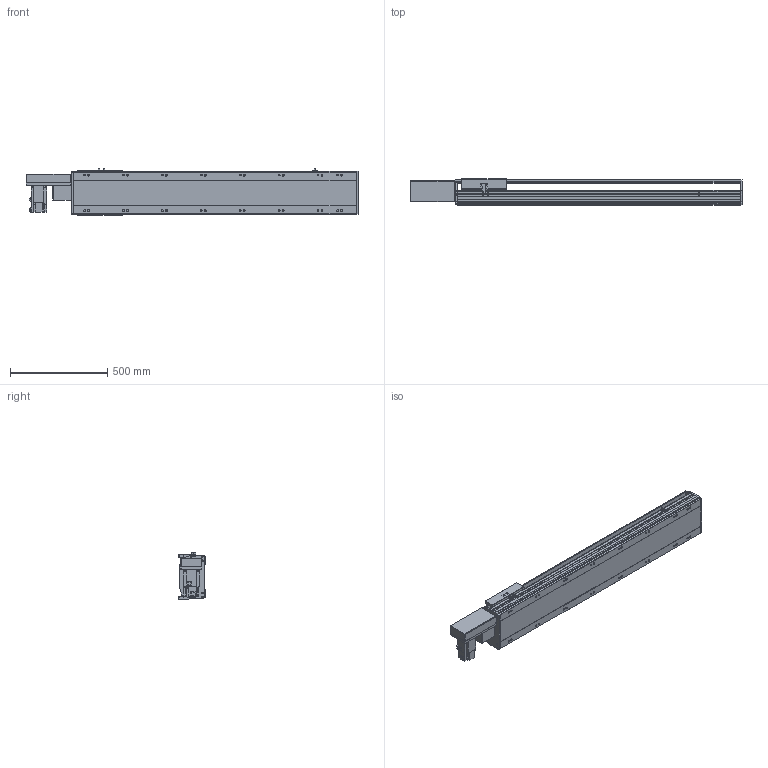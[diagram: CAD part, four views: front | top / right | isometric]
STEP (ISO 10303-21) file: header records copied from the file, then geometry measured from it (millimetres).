
FILE_DESCRIPTION(/* description */ ('STEP AP214'),/* implementation_level */ '2;1');
FILE_NAME(/* name */ 'PBS220-P40-S1100-R-T75-C1-N(0)',/* time_stamp */ '2022-06-11T10:00:59+02:00',/* author */ ('License CC BY-ND 4.0'),/* organization */ ('CADENAS'),/* preprocessor_version */ 'ST-DEVELOPER v18.102',/* originating_system */ 'PARTsolutions',/* authorisation */ ' ');
FILE_SCHEMA (('AUTOMOTIVE_DESIGN {1 0 10303 214 3 1 1}'));
Length unit declared in the file: millimetre
Products named in the file (7): PBS220-P40-S1100-R-T75-C1-N(0); PBS220_sensor; PBS220_plant; PBS220_sliser; T75-p1; PBS220T-R_motors; PBS220-S1100()_body
Assembly tree (8 placements, depth 2):
  PBS220-P40-S1100-R-T75-C1-N(0)
    PBS220_sensor  x3
    PBS220_plant
    PBS220_sliser
    T75-p1
    PBS220T-R_motors
    PBS220-S1100()_body
Bounding box: 1706 x 134 x 238.5 mm (x, y, z)
Volume: 22802339.6 mm3; surface area: 2215470.9 mm2
Topology: 8 solids, 8 shells, 914 faces, 2396 edges, 1558 vertices
Faces by surface type: plane 598, cylinder 276, cone 40
Full cylindrical faces by diameter (mm): 2.013 x4, 4.5 x14, 4.917 x4, 6 x7, 6.647 x8, 8 x10, 8.376 x16, 8.5 x16, 10 x6, 14 x16, 38 x2, 40 x1, 70 x1
Entity records: 25629 total; most frequent: CARTESIAN_POINT 4492, DIRECTION 4455, ORIENTED_EDGE 4106, EDGE_CURVE 2053, AXIS2_PLACEMENT_3D 1555, VERTEX_POINT 1416, LINE 1345, VECTOR 1345
